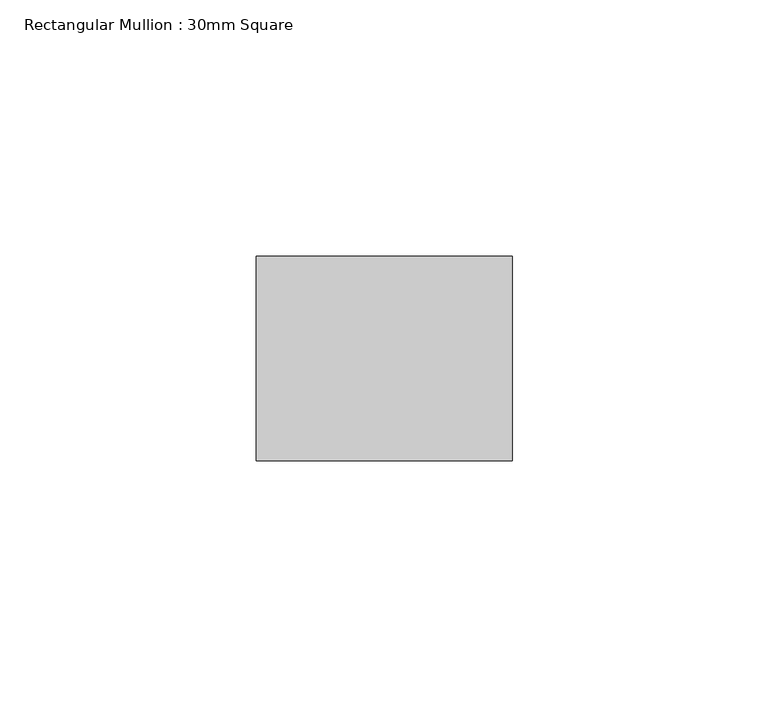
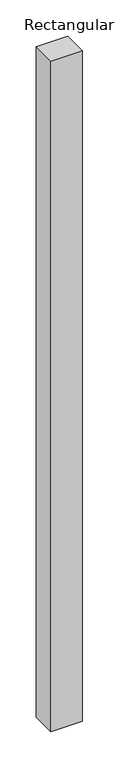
"""IFC4 building model written with IfcOpenShell, lengths in millimetres: member geometry, Rectangular Mullion : 30mm Square."""

from ifc_helpers import new_model, si_unit, frame, origin, place, context, project, spatial, polyline, outline, extrude, source, transform, mapped, element, save


def rectangular_mullion_30mm_square_08ab3047(model_context):
    return source(origin(), model_context, "Body", "SweptSolid", [
        extrude(outline(polyline([(25.0, 20.0), (25.0, -20.0), (-25.0, -20.0), (-25.0, 20.0), (25.0, 20.0)])), frame((0.0, 0.0, -1125.0), z_axis=(0.0, 0.0, 1.0), x_axis=(1.0, 0.0, 0.0)), (0.0, 0.0, 1.0), 1125.0),
    ])


if __name__ == "__main__":
    model = new_model("IFC4")
    model_context = context("Model", 3, world=origin())
    ifc_project = project(units=[si_unit("LENGTHUNIT", "METRE", prefix="MILLI")], contexts=[model_context])
    site = spatial("IfcSite", under=ifc_project)
    building = spatial("IfcBuilding", under=site)
    placement = place(None, origin())
    rectangular_mullion_30mm_square_shape = rectangular_mullion_30mm_square_08ab3047(model_context)
    element("IfcMember", 1, ObjectType="Rectangular Mullion : 30mm Square", at=placement, inside=building, context=model_context, shape_type="MappedRepresentation", body=[
        mapped(rectangular_mullion_30mm_square_shape, transform((0.0, 0.0, 0.0), x_axis=(1.0, 0.0, 0.0), y_axis=(0.0, 1.0, 0.0), z_axis=(0.0, 0.0, 1.0))),
    ])
    save(model, "model.ifc")
